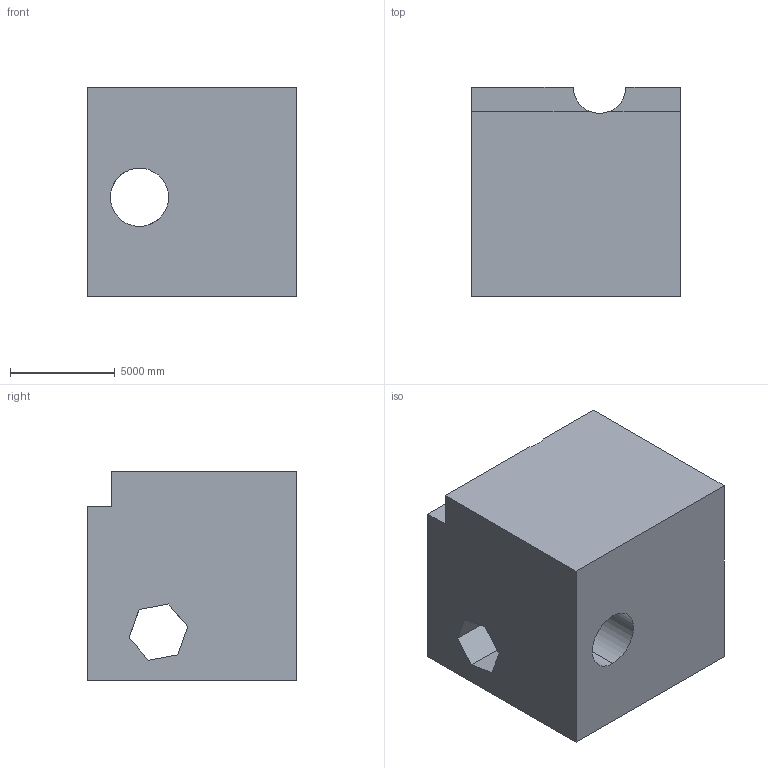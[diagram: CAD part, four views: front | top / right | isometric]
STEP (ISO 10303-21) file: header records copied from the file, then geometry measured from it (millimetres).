
FILE_DESCRIPTION (( 'STEP AP203' ), '1' );
FILE_NAME ('487.STEP', '2022-07-29T11:28:50', ( 'user' ), ( '' ), 'SwSTEP 2.0', 'SolidWorks 2021', '' );
FILE_SCHEMA (( 'CONFIG_CONTROL_DESIGN' ));
Length unit declared in the file: centimetre
Products named in the file (1): 487
Bounding box: 10000 x 10000 x 10000 mm (x, y, z)
Volume: 842156336365.9 mm3; surface area: 751099216.1 mm2
Topology: 1 solids, 1 shells, 24 faces, 72 edges, 48 vertices
Faces by surface type: plane 19, cylinder 5
Entity records: 897 total; most frequent: CARTESIAN_POINT 169, ORIENTED_EDGE 144, DIRECTION 126, EDGE_CURVE 72, VECTOR 52, LINE 52, VERTEX_POINT 48, AXIS2_PLACEMENT_3D 37
